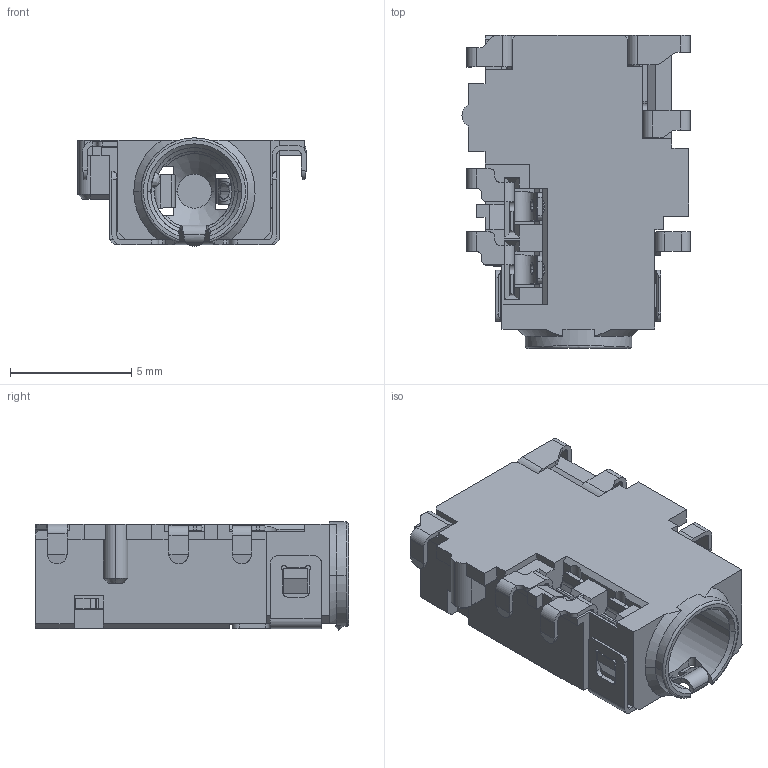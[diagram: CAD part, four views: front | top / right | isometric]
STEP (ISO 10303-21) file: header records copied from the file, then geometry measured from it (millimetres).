
FILE_DESCRIPTION (( 'STEP AP214' ), '1' );
FILE_NAME ('J3B-9.STEP', '2020-10-17T02:51:24', ( '' ), ( '' ), 'SwSTEP 2.0', 'SolidWorks 2016', '' );
FILE_SCHEMA (( 'AUTOMOTIVE_DESIGN' ));
Length unit declared in the file: millimetre
Products named in the file (1): J3B-9
Bounding box: 9.4 x 12.9 x 4.46 mm (x, y, z)
Volume: 221.2 mm3; surface area: 924.6 mm2
Topology: 2 solids, 2 shells, 888 faces, 2514 edges, 1606 vertices
Faces by surface type: plane 527, cylinder 274, bspline 65, cone 20, torus 2
Entity records: 31501 total; most frequent: CARTESIAN_POINT 8959, ORIENTED_EDGE 4996, DIRECTION 4347, EDGE_CURVE 2498, LINE 1717, VECTOR 1717, VERTEX_POINT 1606, AXIS2_PLACEMENT_3D 1315
